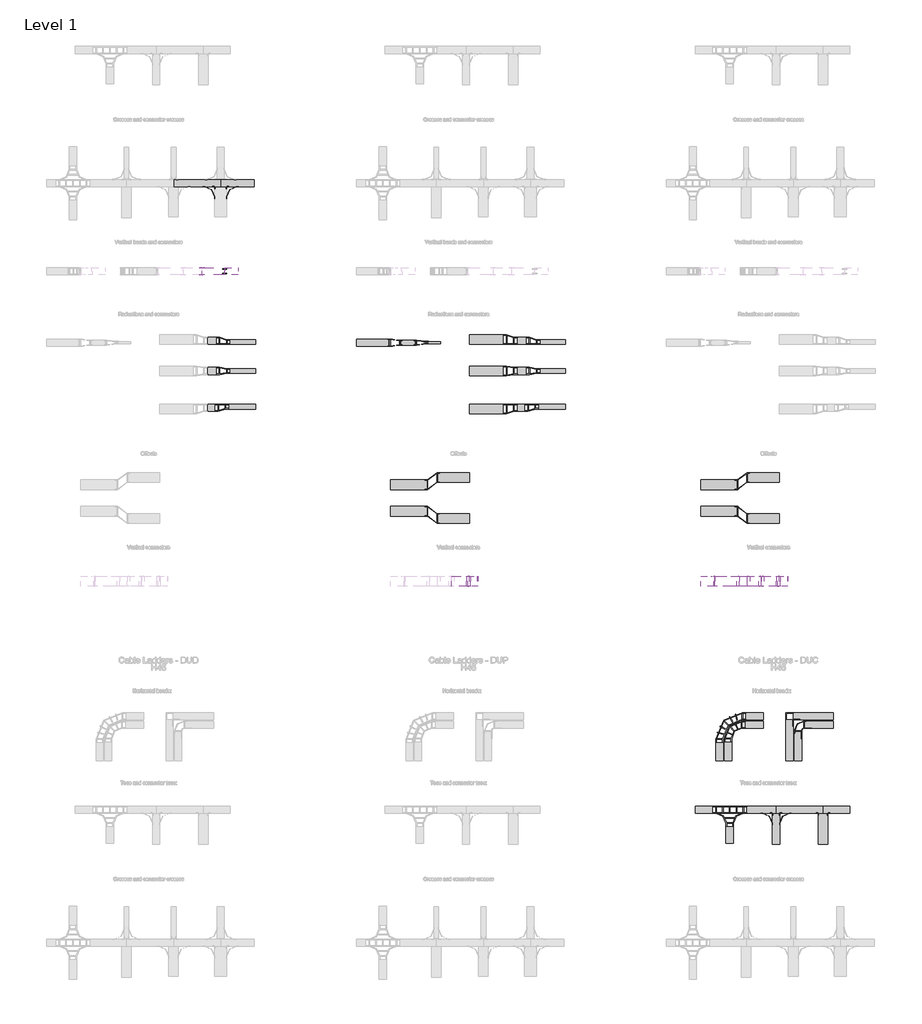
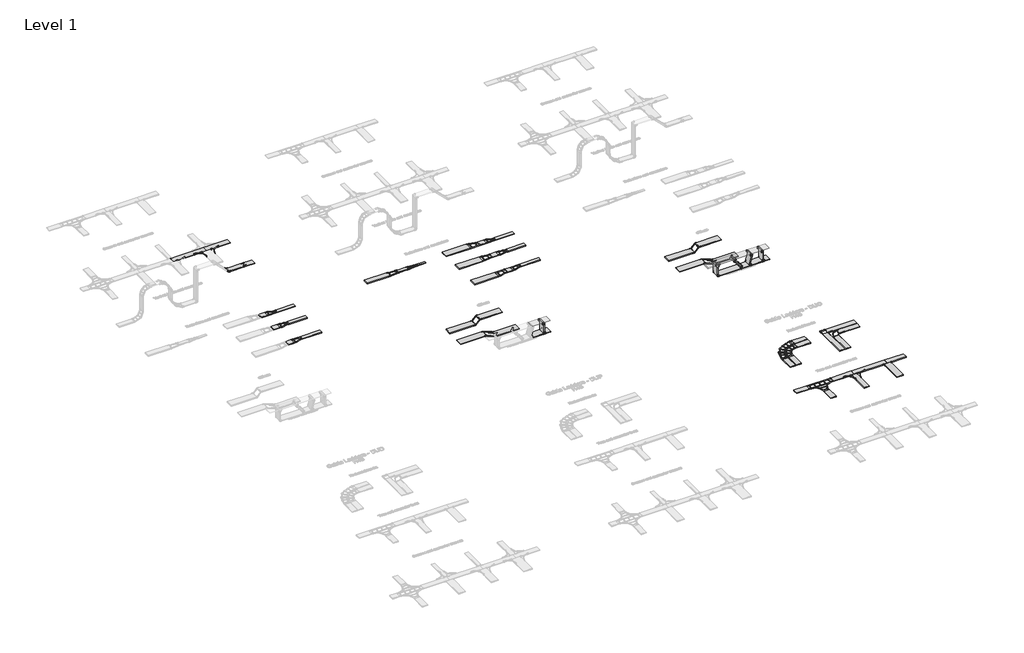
# One storey, part 13 of 106: 63 cable carrier segments, 56 cable carrier fittings.
"""IFC4 building model written with IfcOpenShell, lengths in millimetres."""

from ifc_helpers import new_model, si_unit, frame, origin, place, context, project, spatial, polyline, outline, extrude, transform, mapped, element, save
from components import cable_carrier_fitting_c78842c5, cable_carrier_fitting_6b69b3b7, cable_carrier_fitting_2d894193, cable_carrier_fitting_655502a1, cable_carrier_fitting_0f11f104, cable_carrier_fitting_c89aad98, cable_carrier_fitting_28cc8021, cable_carrier_fitting_a9217249, cable_carrier_fitting_87479157, cable_carrier_fitting_b11fac2c, cable_carrier_fitting_3ee89383, cable_carrier_fitting_dba92b4f, cable_carrier_fitting_45659740, cable_carrier_fitting_ec1c524e, cable_carrier_fitting_41da71e9, cable_carrier_fitting_05152c93, cable_carrier_fitting_202d3e5f, cable_carrier_fitting_ba505e55, cable_carrier_fitting_958e6ea8, cable_carrier_fitting_671e1b7f, cable_carrier_fitting_ea2b664d, cable_carrier_fitting_cb814f34, cable_carrier_fitting_8b1f635d, cable_carrier_fitting_7f83391f, cable_carrier_fitting_c279e415, cable_carrier_fitting_8fabbff6, cable_carrier_fitting_8d7dc52b, cable_carrier_fitting_d30d66bc, cable_carrier_fitting_c0237f39, cable_carrier_fitting_32c3d949, cable_carrier_fitting_d493446b, cable_carrier_fitting_82e7e0fc, cable_carrier_fitting_df7fb664, cable_carrier_fitting_c25b36c4, cable_carrier_fitting_384de159, cable_carrier_fitting_cef1446e, cable_carrier_fitting_ca44e503

model = new_model("IFC4")

# Units and contexts
model_context = context("Model", 3, world=origin())
ifc_project = project(units=[si_unit("LENGTHUNIT", "METRE", prefix="MILLI")], contexts=[model_context])

# Site, building, storey
site = spatial("IfcSite", under=ifc_project)
building = spatial("IfcBuilding", under=site)
storey = spatial("IfcBuildingStorey", under=building, Name="Level 1", Elevation=0.0)

# Cable carrier fittings
placement = place(None, origin())
cable_carrier_fitting_shape = cable_carrier_fitting_c78842c5(model_context)
element("IfcCableCarrierFitting", 1, ObjectType="BAKS_LD_CONN_Straight connector_LDC : LDC_H45", at=placement, inside=storey, context=model_context, shape_type="MappedRepresentation", body=[
    mapped(cable_carrier_fitting_shape, transform((33184.5221787, 56106.9805429, 1239.8602102), x_axis=(1.0, 0.0, 0.0), y_axis=(0.0, 1.0, 0.0), z_axis=(0.0, 0.0, 1.0))),
])
cable_carrier_fitting_2_shape = cable_carrier_fitting_6b69b3b7(model_context)
element("IfcCableCarrierFitting", 2, ObjectType="BAKS_LD_CONN_Vertical connector light_LPLS : LPLS60", at=placement, inside=storey, context=model_context, shape_type="MappedRepresentation", body=[
    mapped(cable_carrier_fitting_2_shape, transform((53559.0241468, 43507.9361079, 2052.4619182), x_axis=(-1.0, 0.0, 0.0), y_axis=(0.0, 0.0, 1.0), z_axis=(0.0, 1.0, 0.0))),
])
cable_carrier_fitting_3_shape = cable_carrier_fitting_2d894193(model_context)
element("IfcCableCarrierFitting", 3, ObjectType="BAKS_LD_CONN_Angle coupler bendable_LKU : LKUP_H45", at=placement, inside=storey, context=model_context, shape_type="MappedRepresentation", body=[
    mapped(cable_carrier_fitting_3_shape, transform((32762.2849338, 59720.7686574, 32.5), x_axis=(1.0, 0.0, 0.0), y_axis=(0.0, 1.0, 0.0), z_axis=(0.0, 0.0, 1.0))),
])
element("IfcCableCarrierFitting", 4, ObjectType="BAKS_LD_CONN_Angle coupler bendable_LKU : LKUP_H45", at=placement, inside=storey, context=model_context, shape_type="MappedRepresentation", body=[
    mapped(cable_carrier_fitting_3_shape, transform((33262.2849338, 59720.7686574, 32.5), x_axis=(0.0, 1.0, 0.0), y_axis=(-1.0, 0.0, 0.0), z_axis=(0.0, 0.0, 1.0))),
])
cable_carrier_fitting_4_shape = cable_carrier_fitting_655502a1(model_context)
element("IfcCableCarrierFitting", 5, ObjectType="BAKS_LD_CONN_Angle coupler bendable_LKU : LKUC_H45", at=placement, inside=storey, context=model_context, shape_type="MappedRepresentation", body=[
    mapped(cable_carrier_fitting_4_shape, transform((55980.7849338, 33655.924016, 32.5), x_axis=(1.0, 0.0, 0.0), y_axis=(0.0, 1.0, 0.0), z_axis=(0.0, 0.0, 1.0))),
])
element("IfcCableCarrierFitting", 6, ObjectType="BAKS_LD_CONN_Angle coupler bendable_LKU : LKUC_H45", at=placement, inside=storey, context=model_context, shape_type="MappedRepresentation", body=[
    mapped(cable_carrier_fitting_4_shape, transform((56280.7849338, 33655.924016, 32.5), x_axis=(0.0, 1.0, 0.0), y_axis=(-1.0, 0.0, 0.0), z_axis=(0.0, 0.0, 1.0))),
])
element("IfcCableCarrierFitting", 7, ObjectType="BAKS_LD_CONN_Angle coupler bendable_LKU : LKUC_H45", at=placement, inside=storey, context=model_context, shape_type="MappedRepresentation", body=[
    mapped(cable_carrier_fitting_4_shape, transform((57889.4231102, 33655.924016, 32.5), x_axis=(1.0, 0.0, 0.0), y_axis=(0.0, 1.0, 0.0), z_axis=(0.0, 0.0, 1.0))),
])
element("IfcCableCarrierFitting", 8, ObjectType="BAKS_LD_CONN_Angle coupler bendable_LKU : LKUC_H45", at=placement, inside=storey, context=model_context, shape_type="MappedRepresentation", body=[
    mapped(cable_carrier_fitting_4_shape, transform((58289.4231102, 33655.924016, 32.5), x_axis=(0.0, 1.0, 0.0), y_axis=(-1.0, 0.0, 0.0), z_axis=(0.0, 0.0, 1.0))),
])
cable_carrier_fitting_5_shape = cable_carrier_fitting_0f11f104(model_context)
element("IfcCableCarrierFitting", 9, ObjectType="BAKS_LD_CONN_Addon connector_LDDK : LDDKP", at=placement, inside=storey, context=model_context, shape_type="MappedRepresentation", body=[
    mapped(cable_carrier_fitting_5_shape, transform((32762.2849338, 59720.7686574, 55.0), x_axis=(1.0, 0.0, 0.0), y_axis=(0.0, 1.0, 0.0), z_axis=(0.0, 0.0, 1.0))),
])
element("IfcCableCarrierFitting", 10, ObjectType="BAKS_LD_CONN_Addon connector_LDDK : LDDKP", at=placement, inside=storey, context=model_context, shape_type="MappedRepresentation", body=[
    mapped(cable_carrier_fitting_5_shape, transform((55980.7849338, 33655.924016, 55.0), x_axis=(1.0, 0.0, 0.0), y_axis=(0.0, 1.0, 0.0), z_axis=(0.0, 0.0, 1.0))),
])
cable_carrier_fitting_6_shape = cable_carrier_fitting_c89aad98(model_context)
element("IfcCableCarrierFitting", 11, ObjectType="BAKS_LD_CONN_Vertical connector light_LPLS : LPLS60", at=placement, inside=storey, context=model_context, shape_type="MappedRepresentation", body=[
    mapped(cable_carrier_fitting_6_shape, transform((53559.0241468, 43107.9361079, 2052.4619182), x_axis=(-1.0, 0.0, 0.0), y_axis=(0.0, 0.0, -1.0), z_axis=(0.0, -1.0, 0.0))),
])
cable_carrier_fitting_7_shape = cable_carrier_fitting_28cc8021(model_context)
element("IfcCableCarrierFitting", 12, ObjectType="BAKS_LD_RED_Straight reducer_RD : RD(S/L/P)P_H45", at=placement, inside=storey, context=model_context, shape_type="MappedRepresentation", body=[
    mapped(cable_carrier_fitting_7_shape, transform((44765.5222547, 52057.8476348, 55.0), x_axis=(1.0, 0.0, 0.0), y_axis=(0.0, 1.0, 0.0), z_axis=(0.0, 0.0, 1.0))),
])
cable_carrier_fitting_8_shape = cable_carrier_fitting_a9217249(model_context)
element("IfcCableCarrierFitting", 13, ObjectType="BAKS_LD_CONN_Addon connector_LDDK : LDDKP", at=placement, inside=storey, context=model_context, shape_type="MappedRepresentation", body=[
    mapped(cable_carrier_fitting_8_shape, transform((33262.2849338, 59720.7686574, 55.0), x_axis=(-1.0, 0.0, 0.0), y_axis=(0.0, -1.0, 0.0), z_axis=(0.0, 0.0, 1.0))),
])
element("IfcCableCarrierFitting", 14, ObjectType="BAKS_LD_CONN_Addon connector_LDDK : LDDKP", at=placement, inside=storey, context=model_context, shape_type="MappedRepresentation", body=[
    mapped(cable_carrier_fitting_8_shape, transform((56280.7849338, 33655.924016, 55.0), x_axis=(-1.0, 0.0, 0.0), y_axis=(0.0, -1.0, 0.0), z_axis=(0.0, 0.0, 1.0))),
])
cable_carrier_fitting_9_shape = cable_carrier_fitting_87479157(model_context)
element("IfcCableCarrierFitting", 15, ObjectType="BAKS_LD_BEND_Articulated connector_LG : LGT_H45", at=placement, inside=storey, context=model_context, shape_type="MappedRepresentation", body=[
    mapped(cable_carrier_fitting_9_shape, transform((32224.5221787, 56056.9805429, 1239.8602102), x_axis=(0.7071067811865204, 0.0, -0.7071067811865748), y_axis=(0.7071067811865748, 0.0, 0.7071067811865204), z_axis=(0.0, -1.0, 0.0))),
])
cable_carrier_fitting_10_shape = cable_carrier_fitting_b11fac2c(model_context)
element("IfcCableCarrierFitting", 16, ObjectType="BAKS_LD_BEND_Articulated connector_LG : LGT_H45", at=placement, inside=storey, context=model_context, shape_type="MappedRepresentation", body=[
    mapped(cable_carrier_fitting_10_shape, transform((32224.5221787, 56356.9805429, 1239.8602102), x_axis=(0.7071067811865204, 0.0, -0.7071067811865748), y_axis=(-0.7071067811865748, 0.0, -0.7071067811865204), z_axis=(0.0, 1.0, 0.0))),
])
cable_carrier_fitting_11_shape = cable_carrier_fitting_3ee89383(model_context)
element("IfcCableCarrierFitting", 17, ObjectType="BAKS_LD_CONN_Univarsal connector reduction_LLUS : LLUSP_H45", at=placement, inside=storey, context=model_context, shape_type="MappedRepresentation", body=[
    mapped(cable_carrier_fitting_11_shape, transform((41064.3823889, 53231.6579459, 55.0), x_axis=(1.0, 0.0, 0.0), y_axis=(0.0, 1.0, 0.0), z_axis=(0.0, 0.0, 1.0))),
])
cable_carrier_fitting_12_shape = cable_carrier_fitting_dba92b4f(model_context)
element("IfcCableCarrierFitting", 18, ObjectType="BAKS_LD_RED_Straight reducer_RD : RD(S/L/P)P_H45", at=placement, inside=storey, context=model_context, shape_type="MappedRepresentation", body=[
    mapped(cable_carrier_fitting_12_shape, transform((44765.5222547, 50471.6579459, 55.0), x_axis=(1.0, 0.0, 0.0), y_axis=(0.0, 1.0, 0.0), z_axis=(0.0, 0.0, 1.0))),
])
cable_carrier_fitting_13_shape = cable_carrier_fitting_45659740(model_context)
element("IfcCableCarrierFitting", 19, ObjectType="BAKS_LD_RED_Straight reducer_RD : RD(S/L/P)P_H45", at=placement, inside=storey, context=model_context, shape_type="MappedRepresentation", body=[
    mapped(cable_carrier_fitting_13_shape, transform((33365.5222547, 50571.6579459, 55.0), x_axis=(-1.0, 0.0, 0.0), y_axis=(0.0, -1.0, 0.0), z_axis=(0.0, 0.0, 1.0))),
])
element("IfcCableCarrierFitting", 20, ObjectType="BAKS_LD_RED_Straight reducer_RD : RD(S/L/P)P_H45", at=placement, inside=storey, context=model_context, shape_type="MappedRepresentation", body=[
    mapped(cable_carrier_fitting_13_shape, transform((46265.5222547, 50571.6579459, 55.0), x_axis=(-1.0, 0.0, 0.0), y_axis=(0.0, -1.0, 0.0), z_axis=(0.0, 0.0, 1.0))),
])
cable_carrier_fitting_14_shape = cable_carrier_fitting_ec1c524e(model_context)
element("IfcCableCarrierFitting", 21, ObjectType="BAKS_LD_RED_Straight reducer_RD : RD(S/L/P)P_H45", at=placement, inside=storey, context=model_context, shape_type="MappedRepresentation", body=[
    mapped(cable_carrier_fitting_14_shape, transform((44765.5222547, 53357.8476348, 55.0), x_axis=(1.0, 0.0, 0.0), y_axis=(0.0, 1.0, 0.0), z_axis=(0.0, 0.0, 1.0))),
])
cable_carrier_fitting_15_shape = cable_carrier_fitting_41da71e9(model_context)
element("IfcCableCarrierFitting", 22, ObjectType="BAKS_LD_RED_Straight reducer_RD : RD(S/L/P)P_H45", at=placement, inside=storey, context=model_context, shape_type="MappedRepresentation", body=[
    mapped(cable_carrier_fitting_15_shape, transform((33416.5656993, 53257.8476348, 55.0), x_axis=(-1.0, 0.0, 0.0), y_axis=(0.0, -1.0, 0.0), z_axis=(0.0, 0.0, 1.0))),
])
element("IfcCableCarrierFitting", 23, ObjectType="BAKS_LD_RED_Straight reducer_RD : RD(S/L/P)P_H45", at=placement, inside=storey, context=model_context, shape_type="MappedRepresentation", body=[
    mapped(cable_carrier_fitting_15_shape, transform((46316.5656993, 53257.8476348, 55.0), x_axis=(-1.0, 0.0, 0.0), y_axis=(0.0, -1.0, 0.0), z_axis=(0.0, 0.0, 1.0))),
])
cable_carrier_fitting_16_shape = cable_carrier_fitting_05152c93(model_context)
element("IfcCableCarrierFitting", 24, ObjectType="BAKS_LD_RED_Straight reducer_RD : RD(S/L/P)P_H45", at=placement, inside=storey, context=model_context, shape_type="MappedRepresentation", body=[
    mapped(cable_carrier_fitting_16_shape, transform((33416.5656993, 52057.8476348, 55.0), x_axis=(-1.0, 0.0, 0.0), y_axis=(0.0, -1.0, 0.0), z_axis=(0.0, 0.0, 1.0))),
])
element("IfcCableCarrierFitting", 25, ObjectType="BAKS_LD_RED_Straight reducer_RD : RD(S/L/P)P_H45", at=placement, inside=storey, context=model_context, shape_type="MappedRepresentation", body=[
    mapped(cable_carrier_fitting_16_shape, transform((46316.5656993, 52057.8476348, 55.0), x_axis=(-1.0, 0.0, 0.0), y_axis=(0.0, -1.0, 0.0), z_axis=(0.0, 0.0, 1.0))),
])
cable_carrier_fitting_17_shape = cable_carrier_fitting_202d3e5f(model_context)
element("IfcCableCarrierFitting", 26, ObjectType="BAKS_LD_CONN_Univarsal connector reduction_LLUS : LLUSP_H45", at=placement, inside=storey, context=model_context, shape_type="MappedRepresentation", body=[
    mapped(cable_carrier_fitting_17_shape, transform((39964.3823889, 53231.6579459, 55.0), x_axis=(1.0, 0.0, 0.0), y_axis=(0.0, 1.0, 0.0), z_axis=(0.0, 0.0, 1.0))),
])
cable_carrier_fitting_18_shape = cable_carrier_fitting_ba505e55(model_context)
element("IfcCableCarrierFitting", 27, ObjectType="BAKS_LD_CONN_Univarsal connector offset_LLUS : LLUSP_H45", at=placement, inside=storey, context=model_context, shape_type="MappedRepresentation", body=[
    mapped(cable_carrier_fitting_18_shape, transform((41595.3508196, 47320.3591551, 55.0), x_axis=(1.0, 0.0, 0.0), y_axis=(0.0, 1.0, 0.0), z_axis=(0.0, 0.0, 1.0))),
])
cable_carrier_fitting_19_shape = cable_carrier_fitting_958e6ea8(model_context)
element("IfcCableCarrierFitting", 28, ObjectType="BAKS_LD_CONN_Univarsal connector offset_LLUS : LLUSP_H45", at=placement, inside=storey, context=model_context, shape_type="MappedRepresentation", body=[
    mapped(cable_carrier_fitting_19_shape, transform((41595.3508196, 46220.3591551, 55.0), x_axis=(1.0, 0.0, 0.0), y_axis=(0.0, 1.0, 0.0), z_axis=(0.0, 0.0, 1.0))),
])
cable_carrier_fitting_20_shape = cable_carrier_fitting_671e1b7f(model_context)
element("IfcCableCarrierFitting", 29, ObjectType="BAKS_LD_TEE_Articulated connector attachable_LDD : LDDT_H45", at=placement, inside=storey, context=model_context, shape_type="MappedRepresentation", body=[
    mapped(cable_carrier_fitting_20_shape, transform((43252.1274343, 43507.9361079, 1949.9576433), x_axis=(-1.0, 0.0, 0.0), y_axis=(0.0, -1.0, 0.0), z_axis=(0.0, 0.0, 1.0))),
])
element("IfcCableCarrierFitting", 30, ObjectType="BAKS_LD_TEE_Articulated connector attachable_LDD : LDDT_H45", at=placement, inside=storey, context=model_context, shape_type="MappedRepresentation", body=[
    mapped(cable_carrier_fitting_20_shape, transform((43407.1274343, 43507.9361079, 1412.2815792), x_axis=(1.0, 0.0, 0.0), y_axis=(0.0, -1.0, 0.0), z_axis=(0.0, 0.0, -1.0))),
])
cable_carrier_fitting_21_shape = cable_carrier_fitting_ea2b664d(model_context)
element("IfcCableCarrierFitting", 31, ObjectType="BAKS_LD_TEE_Articulated connector attachable_LDD : LDDT_H45", at=placement, inside=storey, context=model_context, shape_type="MappedRepresentation", body=[
    mapped(cable_carrier_fitting_21_shape, transform((43252.1274343, 43107.9361079, 1949.9576433), x_axis=(-1.0, 0.0, 0.0), y_axis=(0.0, -1.0, 0.0), z_axis=(0.0, 0.0, 1.0))),
])
element("IfcCableCarrierFitting", 32, ObjectType="BAKS_LD_TEE_Articulated connector attachable_LDD : LDDT_H45", at=placement, inside=storey, context=model_context, shape_type="MappedRepresentation", body=[
    mapped(cable_carrier_fitting_21_shape, transform((43407.1274343, 43107.9361079, 1412.2815792), x_axis=(1.0, 0.0, 0.0), y_axis=(0.0, -1.0, 0.0), z_axis=(0.0, 0.0, -1.0))),
])
cable_carrier_fitting_22_shape = cable_carrier_fitting_cb814f34(model_context)
element("IfcCableCarrierFitting", 33, ObjectType="BAKS_LD_BEND_Horizontal bend external_LDZ : LDZC_H45", at=placement, inside=storey, context=model_context, shape_type="MappedRepresentation", body=[
    mapped(cable_carrier_fitting_22_shape, transform((53779.6389398, 37687.6308868, 55.0), x_axis=(-1.0, 0.0, 0.0), y_axis=(0.0, -1.0, 0.0), z_axis=(0.0, 0.0, 1.0))),
])
cable_carrier_fitting_23_shape = cable_carrier_fitting_8b1f635d(model_context)
element("IfcCableCarrierFitting", 34, ObjectType="BAKS_LD_BEND_Horizontal bend_LD : LDC_H45", at=placement, inside=storey, context=model_context, shape_type="MappedRepresentation", body=[
    mapped(cable_carrier_fitting_23_shape, transform((54133.1923304, 37334.0774962, 55.0), x_axis=(-1.0, 0.0, 0.0), y_axis=(0.0, -1.0, 0.0), z_axis=(0.0, 0.0, 1.0))),
])
cable_carrier_fitting_24_shape = cable_carrier_fitting_7f83391f(model_context)
element("IfcCableCarrierFitting", 35, ObjectType="BAKS_LD_BEND_2 x Angle connector_LKD : 2 x LKDC_H45", at=placement, inside=storey, context=model_context, shape_type="MappedRepresentation", body=[
    mapped(cable_carrier_fitting_24_shape, transform((56692.4394324, 37687.6212743, 55.0), x_axis=(-1.0, 0.0, 0.0), y_axis=(0.0, -1.0, 0.0), z_axis=(0.0, 0.0, 1.0))),
])
cable_carrier_fitting_25_shape = cable_carrier_fitting_c279e415(model_context)
element("IfcCableCarrierFitting", 36, ObjectType="BAKS_LD_CONN_Angle connector_LKD : LKDC_H45", at=placement, inside=storey, context=model_context, shape_type="MappedRepresentation", body=[
    mapped(cable_carrier_fitting_25_shape, transform((56542.4383806, 37837.6212743, 55.0), x_axis=(-1.0, 0.0, 0.0), y_axis=(0.0, -1.0, 0.0), z_axis=(0.0, 0.0, 1.0))),
])
cable_carrier_fitting_26_shape = cable_carrier_fitting_8fabbff6(model_context)
element("IfcCableCarrierFitting", 37, ObjectType="BAKS_LD_CONN_Angle connector_LKD : LKDC_H45", at=placement, inside=storey, context=model_context, shape_type="MappedRepresentation", body=[
    mapped(cable_carrier_fitting_26_shape, transform((56842.4404841, 37537.6212743, 55.0), x_axis=(-1.0, 0.0, 0.0), y_axis=(0.0, -1.0, 0.0), z_axis=(0.0, 0.0, 1.0))),
])
cable_carrier_fitting_27_shape = cable_carrier_fitting_8d7dc52b(model_context)
element("IfcCableCarrierFitting", 38, ObjectType="BAKS_LD_CONN_Univarsal connector elbow_LLUS : LLUS_H45", at=placement, inside=storey, context=model_context, shape_type="MappedRepresentation", body=[
    mapped(cable_carrier_fitting_27_shape, transform((57045.9928229, 37334.0678837, 55.0), x_axis=(-1.0, 0.0, 0.0), y_axis=(0.0, -1.0, 0.0), z_axis=(0.0, 0.0, 1.0))),
])
cable_carrier_fitting_28_shape = cable_carrier_fitting_d30d66bc(model_context)
element("IfcCableCarrierFitting", 39, ObjectType="BAKS_LD_TEE_Ladder horizontal tee_TD : TDC_H45", at=placement, inside=storey, context=model_context, shape_type="MappedRepresentation", body=[
    mapped(cable_carrier_fitting_28_shape, transform((54202.3039726, 33805.924016, 55.0), x_axis=(1.0, 0.0, 0.0), y_axis=(0.0, 1.0, 0.0), z_axis=(0.0, 0.0, 1.0))),
])
cable_carrier_fitting_29_shape = cable_carrier_fitting_c0237f39(model_context)
element("IfcCableCarrierFitting", 40, ObjectType="BAKS_LD_BEND_Articulated connector_LG : LGC_H45", at=placement, inside=storey, context=model_context, shape_type="MappedRepresentation", body=[
    mapped(cable_carrier_fitting_29_shape, transform((53559.0241468, 43107.9361079, 1334.7815792), x_axis=(0.0, 0.0, -1.0), y_axis=(1.0, 0.0, 0.0), z_axis=(0.0, -1.0, 0.0))),
])
cable_carrier_fitting_30_shape = cable_carrier_fitting_32c3d949(model_context)
element("IfcCableCarrierFitting", 41, ObjectType="BAKS_LD_BEND_Articulated connector_LG : LGC_H45", at=placement, inside=storey, context=model_context, shape_type="MappedRepresentation", body=[
    mapped(cable_carrier_fitting_30_shape, transform((53559.0241468, 43507.9361079, 1334.7815792), x_axis=(0.0, 0.0, -1.0), y_axis=(-1.0, 0.0, 0.0), z_axis=(0.0, 1.0, 0.0))),
])
cable_carrier_fitting_31_shape = cable_carrier_fitting_d493446b(model_context)
element("IfcCableCarrierFitting", 42, ObjectType="BAKS_LD_CONN_Univarsal connector offset_LLUS : LLUS_H45", at=placement, inside=storey, context=model_context, shape_type="MappedRepresentation", body=[
    mapped(cable_carrier_fitting_31_shape, transform((54495.3508196, 47320.3591551, 55.0), x_axis=(1.0, 0.0, 0.0), y_axis=(0.0, 1.0, 0.0), z_axis=(0.0, 0.0, 1.0))),
])
cable_carrier_fitting_32_shape = cable_carrier_fitting_82e7e0fc(model_context)
element("IfcCableCarrierFitting", 43, ObjectType="BAKS_LD_CONN_Univarsal connector offset_LLUS : LLUS_H45", at=placement, inside=storey, context=model_context, shape_type="MappedRepresentation", body=[
    mapped(cable_carrier_fitting_32_shape, transform((54495.3508196, 46220.3591551, 55.0), x_axis=(1.0, 0.0, 0.0), y_axis=(0.0, 1.0, 0.0), z_axis=(0.0, 0.0, 1.0))),
])
cable_carrier_fitting_33_shape = cable_carrier_fitting_df7fb664(model_context)
element("IfcCableCarrierFitting", 44, ObjectType="BAKS_LD_TEE_Articulated connector attachable_LDD : LDDC_H45", at=placement, inside=storey, context=model_context, shape_type="MappedRepresentation", body=[
    mapped(cable_carrier_fitting_33_shape, transform((54610.266251, 43507.9361079, 1949.9576433), x_axis=(1.0, 0.0, 0.0), y_axis=(0.0, 1.0, 0.0), z_axis=(0.0, 0.0, 1.0))),
])
element("IfcCableCarrierFitting", 45, ObjectType="BAKS_LD_TEE_Articulated connector attachable_LDD : LDDC_H45", at=placement, inside=storey, context=model_context, shape_type="MappedRepresentation", body=[
    mapped(cable_carrier_fitting_33_shape, transform((54928.739213, 43507.9361079, 1412.2815792), x_axis=(-1.0, 0.0, 0.0), y_axis=(0.0, 1.0, 0.0), z_axis=(0.0, 0.0, -1.0))),
])
cable_carrier_fitting_34_shape = cable_carrier_fitting_c25b36c4(model_context)
element("IfcCableCarrierFitting", 46, ObjectType="BAKS_LD_TEE_Articulated connector attachable_LDD : LDDC_H45", at=placement, inside=storey, context=model_context, shape_type="MappedRepresentation", body=[
    mapped(cable_carrier_fitting_34_shape, transform((54610.266251, 43107.9361079, 1949.9576433), x_axis=(1.0, 0.0, 0.0), y_axis=(0.0, 1.0, 0.0), z_axis=(0.0, 0.0, 1.0))),
])
element("IfcCableCarrierFitting", 47, ObjectType="BAKS_LD_TEE_Articulated connector attachable_LDD : LDDC_H45", at=placement, inside=storey, context=model_context, shape_type="MappedRepresentation", body=[
    mapped(cable_carrier_fitting_34_shape, transform((54928.739213, 43107.9361079, 1412.2815792), x_axis=(-1.0, 0.0, 0.0), y_axis=(0.0, 1.0, 0.0), z_axis=(0.0, 0.0, -1.0))),
])
cable_carrier_fitting_35_shape = cable_carrier_fitting_384de159(model_context)
element("IfcCableCarrierFitting", 48, ObjectType="BAKS_LD_TEE_Articulated connector attachable_LDD : LDDC_H45", at=placement, inside=storey, context=model_context, shape_type="MappedRepresentation", body=[
    mapped(cable_carrier_fitting_35_shape, transform((55526.8193277, 43507.9361079, 1412.2815792), x_axis=(1.0, 0.0, 0.0), y_axis=(0.0, -1.0, 0.0), z_axis=(0.0, 0.0, -1.0))),
])
element("IfcCableCarrierFitting", 49, ObjectType="BAKS_LD_TEE_Articulated connector attachable_LDD : LDDC_H45", at=placement, inside=storey, context=model_context, shape_type="MappedRepresentation", body=[
    mapped(cable_carrier_fitting_35_shape, transform((55510.4138626, 43507.9361079, 1949.9295622), x_axis=(-1.0, 0.0, 0.0), y_axis=(0.0, -1.0, 0.0), z_axis=(0.0, 0.0, 1.0))),
])
cable_carrier_fitting_36_shape = cable_carrier_fitting_cef1446e(model_context)
element("IfcCableCarrierFitting", 50, ObjectType="BAKS_LD_TEE_Articulated connector attachable_LDD : LDDC_H45", at=placement, inside=storey, context=model_context, shape_type="MappedRepresentation", body=[
    mapped(cable_carrier_fitting_36_shape, transform((55526.8193277, 43107.9361079, 1412.2815792), x_axis=(1.0, 0.0, 0.0), y_axis=(0.0, -1.0, 0.0), z_axis=(0.0, 0.0, -1.0))),
])
element("IfcCableCarrierFitting", 51, ObjectType="BAKS_LD_TEE_Articulated connector attachable_LDD : LDDC_H45", at=placement, inside=storey, context=model_context, shape_type="MappedRepresentation", body=[
    mapped(cable_carrier_fitting_36_shape, transform((55510.4138626, 43107.9361079, 1949.9295622), x_axis=(-1.0, 0.0, 0.0), y_axis=(0.0, -1.0, 0.0), z_axis=(0.0, 0.0, 1.0))),
])
element("IfcCableCarrierFitting", 52, ObjectType="BAKS_LD_TEE_Articulated connector attachable_LDD : LDDC_H45", at=placement, inside=storey, context=model_context, shape_type="MappedRepresentation", body=[
    mapped(cable_carrier_fitting_20_shape, transform((56152.1274343, 43507.9361079, 1949.9576433), x_axis=(-1.0, 0.0, 0.0), y_axis=(0.0, -1.0, 0.0), z_axis=(0.0, 0.0, 1.0))),
])
element("IfcCableCarrierFitting", 53, ObjectType="BAKS_LD_TEE_Articulated connector attachable_LDD : LDDC_H45", at=placement, inside=storey, context=model_context, shape_type="MappedRepresentation", body=[
    mapped(cable_carrier_fitting_20_shape, transform((56307.1274343, 43507.9361079, 1412.2815792), x_axis=(1.0, 0.0, 0.0), y_axis=(0.0, -1.0, 0.0), z_axis=(0.0, 0.0, -1.0))),
])
element("IfcCableCarrierFitting", 54, ObjectType="BAKS_LD_TEE_Articulated connector attachable_LDD : LDDC_H45", at=placement, inside=storey, context=model_context, shape_type="MappedRepresentation", body=[
    mapped(cable_carrier_fitting_21_shape, transform((56152.1274343, 43107.9361079, 1949.9576433), x_axis=(-1.0, 0.0, 0.0), y_axis=(0.0, -1.0, 0.0), z_axis=(0.0, 0.0, 1.0))),
])
element("IfcCableCarrierFitting", 55, ObjectType="BAKS_LD_TEE_Articulated connector attachable_LDD : LDDC_H45", at=placement, inside=storey, context=model_context, shape_type="MappedRepresentation", body=[
    mapped(cable_carrier_fitting_21_shape, transform((56307.1274343, 43107.9361079, 1412.2815792), x_axis=(1.0, 0.0, 0.0), y_axis=(0.0, -1.0, 0.0), z_axis=(0.0, 0.0, -1.0))),
])
cable_carrier_fitting_37_shape = cable_carrier_fitting_ca44e503(model_context)
element("IfcCableCarrierFitting", 56, ObjectType="BAKS_LD_CONN_Straight connector_LDC : LDC_H45", at=placement, inside=storey, context=model_context, shape_type="MappedRepresentation", body=[
    mapped(cable_carrier_fitting_37_shape, transform((33184.5221787, 56306.9805429, 1239.8602102), x_axis=(1.0, 0.0, 0.0), y_axis=(0.0, 1.0, 0.0), z_axis=(0.0, 0.0, 1.0))),
])

# Cable carrier segments
element("IfcCableCarrierSegment", 57, ObjectType="BAKS - Ladder H45 (DKD)", at=placement, inside=storey, context=model_context, shape_type="SweptSolid", body=[
    extrude(outline(polyline([(31052.4231102, 59720.7686574), (31052.4231102, 60020.7686574), (33010.7849338, 60020.7686574), (33010.7849338, 59720.7686574), (31052.4231102, 59720.7686574)])), frame((0.0, 0.0, 32.5), z_axis=(0.0, 0.0, 1.0), x_axis=(1.0, 0.0, 0.0)), (0.0, 0.0, 1.0), 45.0),
])
element("IfcCableCarrierSegment", 58, ObjectType="BAKS - Ladder H45 (DKD)", at=placement, inside=storey, context=model_context, shape_type="SweptSolid", body=[
    extrude(outline(polyline([(33013.7849338, 59720.7686574), (33013.7849338, 60020.7686574), (34413.7849338, 60020.7686574), (34413.7849338, 59720.7686574), (33013.7849338, 59720.7686574)])), frame((0.0, 0.0, 32.5), z_axis=(0.0, 0.0, 1.0), x_axis=(1.0, 0.0, 0.0)), (0.0, 0.0, 1.0), 45.0),
])
element("IfcCableCarrierSegment", 59, ObjectType="BAKS - Ladder H45 (DKD)", at=placement, inside=storey, context=model_context, shape_type="SweptSolid", body=[
    extrude(outline(polyline([(33185.5221787, 56056.9805429), (33185.5221787, 56356.9805429), (33744.5221787, 56356.9805429), (33744.5221787, 56056.9805429), (33185.5221787, 56056.9805429)])), frame((0.0, 0.0, 1217.3602102), z_axis=(0.0, 0.0, 1.0), x_axis=(1.0, 0.0, 0.0)), (0.0, 0.0, 1.0), 45.0),
])
element("IfcCableCarrierSegment", 60, ObjectType="BAKS - Ladder H45 (DKD)", at=placement, inside=storey, context=model_context, shape_type="SweptSolid", body=[
    extrude(outline(polyline([(32249.5221787, 56056.9805429), (32249.5221787, 56356.9805429), (33184.5221787, 56356.9805429), (33184.5221787, 56056.9805429), (32249.5221787, 56056.9805429)])), frame((0.0, 0.0, 1217.3602102), z_axis=(0.0, 0.0, 1.0), x_axis=(1.0, 0.0, 0.0)), (0.0, 0.0, 1.0), 45.0),
])
element("IfcCableCarrierSegment", 61, ObjectType="BAKS - Ladder H45 (DKD)", at=placement, inside=storey, context=model_context, shape_type="SweptSolid", body=[
    extrude(outline(polyline([(32765.5222547, 50671.6579459), (32765.5222547, 50371.6579459), (32465.5222547, 50371.6579459), (32465.5222547, 50671.6579459), (32765.5222547, 50671.6579459)])), frame((0.0, 0.0, 32.5), z_axis=(0.0, 0.0, 1.0), x_axis=(1.0, 0.0, 0.0)), (0.0, 0.0, 1.0), 45.0),
])
element("IfcCableCarrierSegment", 62, ObjectType="BAKS - Ladder H45 (DKD)", at=placement, inside=storey, context=model_context, shape_type="SweptSolid", body=[
    extrude(outline(polyline([(34465.5222547, 50671.6579459), (34465.5222547, 50471.6579459), (33365.5222547, 50471.6579459), (33365.5222547, 50671.6579459), (34465.5222547, 50671.6579459)])), frame((0.0, 0.0, 32.5), z_axis=(0.0, 0.0, 1.0), x_axis=(1.0, 0.0, 0.0)), (0.0, 0.0, 1.0), 45.0),
])
element("IfcCableCarrierSegment", 63, ObjectType="BAKS - Ladder H45 (DKD)", at=placement, inside=storey, context=model_context, shape_type="SweptSolid", body=[
    extrude(outline(polyline([(32816.5656993, 53457.8476348), (32816.5656993, 53157.8476348), (32465.5222547, 53157.8476348), (32465.5222547, 53457.8476348), (32816.5656993, 53457.8476348)])), frame((0.0, 0.0, 32.5), z_axis=(0.0, 0.0, 1.0), x_axis=(1.0, 0.0, 0.0)), (0.0, 0.0, 1.0), 45.0),
])
element("IfcCableCarrierSegment", 64, ObjectType="BAKS - Ladder H45 (DKD)", at=placement, inside=storey, context=model_context, shape_type="SweptSolid", body=[
    extrude(outline(polyline([(33416.5656993, 53157.8476348), (33416.5656993, 53357.8476348), (34465.5222547, 53357.8476348), (34465.5222547, 53157.8476348), (33416.5656993, 53157.8476348)])), frame((0.0, 0.0, 32.5), z_axis=(0.0, 0.0, 1.0), x_axis=(1.0, 0.0, 0.0)), (0.0, 0.0, 1.0), 45.0),
])
element("IfcCableCarrierSegment", 65, ObjectType="BAKS - Ladder H45 (DKD)", at=placement, inside=storey, context=model_context, shape_type="SweptSolid", body=[
    extrude(outline(polyline([(32816.5656993, 52207.8476348), (32816.5656993, 51907.8476348), (32465.5222547, 51907.8476348), (32465.5222547, 52207.8476348), (32816.5656993, 52207.8476348)])), frame((0.0, 0.0, 32.5), z_axis=(0.0, 0.0, 1.0), x_axis=(1.0, 0.0, 0.0)), (0.0, 0.0, 1.0), 45.0),
])
element("IfcCableCarrierSegment", 66, ObjectType="BAKS - Ladder H45 (DKD)", at=placement, inside=storey, context=model_context, shape_type="SweptSolid", body=[
    extrude(outline(polyline([(34465.5222547, 52157.8476348), (34465.5222547, 51957.8476348), (33416.5656993, 51957.8476348), (33416.5656993, 52157.8476348), (34465.5222547, 52157.8476348)])), frame((0.0, 0.0, 32.5), z_axis=(0.0, 0.0, 1.0), x_axis=(1.0, 0.0, 0.0)), (0.0, 0.0, 1.0), 45.0),
])
element("IfcCableCarrierSegment", 67, ObjectType="BAKS - Ladder H45 (DKP)", at=placement, inside=storey, context=model_context, shape_type="SweptSolid", body=[
    extrude(outline(polyline([(38664.3823889, 53081.6579459), (38664.3823889, 53381.6579459), (40009.3823889, 53381.6579459), (40009.3823889, 53081.6579459), (38664.3823889, 53081.6579459)])), frame((0.0, 0.0, 32.5), z_axis=(0.0, 0.0, 1.0), x_axis=(1.0, 0.0, 0.0)), (0.0, 0.0, 1.0), 45.0),
])
element("IfcCableCarrierSegment", 68, ObjectType="BAKS - Ladder H45 (DKP)", at=placement, inside=storey, context=model_context, shape_type="SweptSolid", body=[
    extrude(outline(polyline([(40519.3823889, 53131.6579459), (40519.3823889, 53331.6579459), (41109.3823889, 53331.6579459), (41109.3823889, 53131.6579459), (40519.3823889, 53131.6579459)])), frame((0.0, 0.0, 32.5), z_axis=(0.0, 0.0, 1.0), x_axis=(1.0, 0.0, 0.0)), (0.0, 0.0, 1.0), 45.0),
])
element("IfcCableCarrierSegment", 69, ObjectType="BAKS - Ladder H45 (DKP)", at=placement, inside=storey, context=model_context, shape_type="SweptSolid", body=[
    extrude(outline(polyline([(41619.3823889, 53181.6579459), (41619.3823889, 53281.6579459), (42164.3823889, 53281.6579459), (42164.3823889, 53181.6579459), (41619.3823889, 53181.6579459)])), frame((0.0, 0.0, 32.5), z_axis=(0.0, 0.0, 1.0), x_axis=(1.0, 0.0, 0.0)), (0.0, 0.0, 1.0), 45.0),
])
element("IfcCableCarrierSegment", 70, ObjectType="BAKS - Ladder H45 (DKP)", at=placement, inside=storey, context=model_context, shape_type="SweptSolid", body=[
    extrude(outline(polyline([(45665.5222547, 50671.6579459), (45665.5222547, 50371.6579459), (45365.5222547, 50371.6579459), (45365.5222547, 50671.6579459), (45665.5222547, 50671.6579459)])), frame((0.0, 0.0, 32.5), z_axis=(0.0, 0.0, 1.0), x_axis=(1.0, 0.0, 0.0)), (0.0, 0.0, 1.0), 45.0),
])
element("IfcCableCarrierSegment", 71, ObjectType="BAKS - Ladder H45 (DKP)", at=placement, inside=storey, context=model_context, shape_type="SweptSolid", body=[
    extrude(outline(polyline([(43365.5222547, 50271.6579459), (43365.5222547, 50671.6579459), (44765.5222547, 50671.6579459), (44765.5222547, 50271.6579459), (43365.5222547, 50271.6579459)])), frame((0.0, 0.0, 32.5), z_axis=(0.0, 0.0, 1.0), x_axis=(1.0, 0.0, 0.0)), (0.0, 0.0, 1.0), 45.0),
])
element("IfcCableCarrierSegment", 72, ObjectType="BAKS - Ladder H45 (DKP)", at=placement, inside=storey, context=model_context, shape_type="SweptSolid", body=[
    extrude(outline(polyline([(47365.5222547, 50671.6579459), (47365.5222547, 50471.6579459), (46265.5222547, 50471.6579459), (46265.5222547, 50671.6579459), (47365.5222547, 50671.6579459)])), frame((0.0, 0.0, 32.5), z_axis=(0.0, 0.0, 1.0), x_axis=(1.0, 0.0, 0.0)), (0.0, 0.0, 1.0), 45.0),
])
element("IfcCableCarrierSegment", 73, ObjectType="BAKS - Ladder H45 (DKP)", at=placement, inside=storey, context=model_context, shape_type="SweptSolid", body=[
    extrude(outline(polyline([(45716.5656993, 53457.8476348), (45716.5656993, 53157.8476348), (45365.5222547, 53157.8476348), (45365.5222547, 53457.8476348), (45716.5656993, 53457.8476348)])), frame((0.0, 0.0, 32.5), z_axis=(0.0, 0.0, 1.0), x_axis=(1.0, 0.0, 0.0)), (0.0, 0.0, 1.0), 45.0),
])
element("IfcCableCarrierSegment", 74, ObjectType="BAKS - Ladder H45 (DKP)", at=placement, inside=storey, context=model_context, shape_type="SweptSolid", body=[
    extrude(outline(polyline([(43365.5222547, 53157.8476348), (43365.5222547, 53557.8476348), (44765.5222547, 53557.8476348), (44765.5222547, 53157.8476348), (43365.5222547, 53157.8476348)])), frame((0.0, 0.0, 32.5), z_axis=(0.0, 0.0, 1.0), x_axis=(1.0, 0.0, 0.0)), (0.0, 0.0, 1.0), 45.0),
])
element("IfcCableCarrierSegment", 75, ObjectType="BAKS - Ladder H45 (DKP)", at=placement, inside=storey, context=model_context, shape_type="SweptSolid", body=[
    extrude(outline(polyline([(46316.5656993, 53157.8476348), (46316.5656993, 53357.8476348), (47365.5222547, 53357.8476348), (47365.5222547, 53157.8476348), (46316.5656993, 53157.8476348)])), frame((0.0, 0.0, 32.5), z_axis=(0.0, 0.0, 1.0), x_axis=(1.0, 0.0, 0.0)), (0.0, 0.0, 1.0), 45.0),
])
element("IfcCableCarrierSegment", 76, ObjectType="BAKS - Ladder H45 (DKP)", at=placement, inside=storey, context=model_context, shape_type="SweptSolid", body=[
    extrude(outline(polyline([(45716.5656993, 52207.8476348), (45716.5656993, 51907.8476348), (45365.5222547, 51907.8476348), (45365.5222547, 52207.8476348), (45716.5656993, 52207.8476348)])), frame((0.0, 0.0, 32.5), z_axis=(0.0, 0.0, 1.0), x_axis=(1.0, 0.0, 0.0)), (0.0, 0.0, 1.0), 45.0),
])
element("IfcCableCarrierSegment", 77, ObjectType="BAKS - Ladder H45 (DKP)", at=placement, inside=storey, context=model_context, shape_type="SweptSolid", body=[
    extrude(outline(polyline([(47365.5222547, 52157.8476348), (47365.5222547, 51957.8476348), (46316.5656993, 51957.8476348), (46316.5656993, 52157.8476348), (47365.5222547, 52157.8476348)])), frame((0.0, 0.0, 32.5), z_axis=(0.0, 0.0, 1.0), x_axis=(1.0, 0.0, 0.0)), (0.0, 0.0, 1.0), 45.0),
])
element("IfcCableCarrierSegment", 78, ObjectType="BAKS - Ladder H45 (DKP)", at=placement, inside=storey, context=model_context, shape_type="SweptSolid", body=[
    extrude(outline(polyline([(43365.5222547, 51857.8476348), (43365.5222547, 52257.8476348), (44765.5222547, 52257.8476348), (44765.5222547, 51857.8476348), (43365.5222547, 51857.8476348)])), frame((0.0, 0.0, 32.5), z_axis=(0.0, 0.0, 1.0), x_axis=(1.0, 0.0, 0.0)), (0.0, 0.0, 1.0), 45.0),
])
element("IfcCableCarrierSegment", 79, ObjectType="BAKS - Ladder H45 (DKP)", at=placement, inside=storey, context=model_context, shape_type="SweptSolid", body=[
    extrude(outline(polyline([(40095.3508196, 47120.3591551), (40095.3508196, 47520.3591551), (41595.3508196, 47520.3591551), (41595.3508196, 47120.3591551), (40095.3508196, 47120.3591551)])), frame((0.0, 0.0, 32.5), z_axis=(0.0, 0.0, 1.0), x_axis=(1.0, 0.0, 0.0)), (0.0, 0.0, 1.0), 45.0),
])
element("IfcCableCarrierSegment", 80, ObjectType="BAKS - Ladder H45 (DKP)", at=placement, inside=storey, context=model_context, shape_type="SweptSolid", body=[
    extrude(outline(polyline([(42055.3508196, 47420.3591551), (42055.3508196, 47820.3591551), (43365.5222547, 47820.3591551), (43365.5222547, 47420.3591551), (42055.3508196, 47420.3591551)])), frame((0.0, 0.0, 32.5), z_axis=(0.0, 0.0, 1.0), x_axis=(1.0, 0.0, 0.0)), (0.0, 0.0, 1.0), 45.0),
])
element("IfcCableCarrierSegment", 81, ObjectType="BAKS - Ladder H45 (DKP)", at=placement, inside=storey, context=model_context, shape_type="SweptSolid", body=[
    extrude(outline(polyline([(40095.3508196, 46020.3591551), (40095.3508196, 46420.3591551), (41595.3508196, 46420.3591551), (41595.3508196, 46020.3591551), (40095.3508196, 46020.3591551)])), frame((0.0, 0.0, 32.5), z_axis=(0.0, 0.0, 1.0), x_axis=(1.0, 0.0, 0.0)), (0.0, 0.0, 1.0), 45.0),
])
element("IfcCableCarrierSegment", 82, ObjectType="BAKS - Ladder H45 (DKP)", at=placement, inside=storey, context=model_context, shape_type="SweptSolid", body=[
    extrude(outline(polyline([(42055.3508196, 45720.3591551), (42055.3508196, 46120.3591551), (43365.5222547, 46120.3591551), (43365.5222547, 45720.3591551), (42055.3508196, 45720.3591551)])), frame((0.0, 0.0, 32.5), z_axis=(0.0, 0.0, 1.0), x_axis=(1.0, 0.0, 0.0)), (0.0, 0.0, 1.0), 45.0),
])
element("IfcCableCarrierSegment", 83, ObjectType="BAKS - Ladder H45 (DKP)", at=placement, inside=storey, context=model_context, shape_type="SweptSolid", body=[
    extrude(outline(polyline([(43254.6274343, 43107.9361079), (43254.6274343, 43507.9361079), (43692.766251, 43507.9361079), (43692.766251, 43107.9361079), (43254.6274343, 43107.9361079)])), frame((0.0, 0.0, 2004.9576433), z_axis=(0.0, 0.0, 1.0), x_axis=(1.0, 0.0, 0.0)), (0.0, 0.0, 1.0), 45.0),
])
element("IfcCableCarrierSegment", 84, ObjectType="BAKS - Ladder H45 (DKP)", at=placement, inside=storey, context=model_context, shape_type="SweptSolid", body=[
    extrude(outline(polyline([(43409.6274343, 43107.9361079), (43409.6274343, 43507.9361079), (43717.5103913, 43507.9361079), (43717.5103913, 43107.9361079), (43409.6274343, 43107.9361079)])), frame((0.0, 0.0, 1312.2815792), z_axis=(0.0, 0.0, 1.0), x_axis=(1.0, 0.0, 0.0)), (0.0, 0.0, 1.0), 45.0),
])
element("IfcCableCarrierSegment", 85, ObjectType="BAKS - Ladder H45 (DKP)", at=placement, inside=storey, context=model_context, shape_type="SweptSolid", body=[
    extrude(outline(polyline([(0.0, -399.9999997), (0.0, 0.0), (636.7135722, 0.0), (636.7135722, -399.9999997), (0.0, -399.9999997)])), frame((42612.914855, 43507.9361078, 2004.9295622), z_axis=(-4.4103235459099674e-05, 0.0, 0.9999999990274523), x_axis=(0.9999999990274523, 0.0, 4.4103235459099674e-05)), (0.0, 0.0, 1.0), 45.0),
])
element("IfcCableCarrierSegment", 86, ObjectType="BAKS - Ladder H45 (DKP)", at=placement, inside=storey, context=model_context, shape_type="SweptSolid", body=[
    extrude(outline(polyline([(42629.3193277, 43107.9361079), (42629.3193277, 43507.9361079), (43404.6274343, 43507.9361079), (43404.6274343, 43107.9361079), (42629.3193277, 43107.9361079)])), frame((0.0, 0.0, 1312.2815792), z_axis=(0.0, 0.0, 1.0), x_axis=(1.0, 0.0, 0.0)), (0.0, 0.0, 1.0), 45.0),
])
element("IfcCableCarrierSegment", 87, ObjectType="BAKS - Ladder H45 (DKP)", at=placement, inside=storey, context=model_context, shape_type="SweptSolid", body=[
    extrude(outline(polyline([(43307.1274343, 43507.9361079), (43352.1274343, 43507.9361079), (43352.1274343, 43107.9361079), (43307.1274343, 43107.9361079), (43307.1274343, 43507.9361079)])), frame((0.0, 0.0, 1362.2815792), z_axis=(0.0, 0.0, 1.0), x_axis=(1.0, 0.0, 0.0)), (0.0, 0.0, 1.0), 637.6760641),
])
element("IfcCableCarrierSegment", 88, ObjectType="BAKS - Ladder H45 (DKC)", at=placement, inside=storey, context=model_context, shape_type="SweptSolid", body=[
    extrude(outline(polyline([(52995.3508196, 47120.3591551), (52995.3508196, 47520.3591551), (54495.3508196, 47520.3591551), (54495.3508196, 47120.3591551), (52995.3508196, 47120.3591551)])), frame((0.0, 0.0, 32.5), z_axis=(0.0, 0.0, 1.0), x_axis=(1.0, 0.0, 0.0)), (0.0, 0.0, 1.0), 45.0),
])
element("IfcCableCarrierSegment", 89, ObjectType="BAKS - Ladder H45 (DKC)", at=placement, inside=storey, context=model_context, shape_type="SweptSolid", body=[
    extrude(outline(polyline([(54955.3508196, 47420.3591551), (54955.3508196, 47820.3591551), (56265.5222547, 47820.3591551), (56265.5222547, 47420.3591551), (54955.3508196, 47420.3591551)])), frame((0.0, 0.0, 32.5), z_axis=(0.0, 0.0, 1.0), x_axis=(1.0, 0.0, 0.0)), (0.0, 0.0, 1.0), 45.0),
])
element("IfcCableCarrierSegment", 90, ObjectType="BAKS - Ladder H45 (DKC)", at=placement, inside=storey, context=model_context, shape_type="SweptSolid", body=[
    extrude(outline(polyline([(52995.3508196, 46020.3591551), (52995.3508196, 46420.3591551), (54495.3508196, 46420.3591551), (54495.3508196, 46020.3591551), (52995.3508196, 46020.3591551)])), frame((0.0, 0.0, 32.5), z_axis=(0.0, 0.0, 1.0), x_axis=(1.0, 0.0, 0.0)), (0.0, 0.0, 1.0), 45.0),
])
element("IfcCableCarrierSegment", 91, ObjectType="BAKS - Ladder H45 (DKC)", at=placement, inside=storey, context=model_context, shape_type="SweptSolid", body=[
    extrude(outline(polyline([(54955.3508196, 45720.3591551), (54955.3508196, 46120.3591551), (56265.5222547, 46120.3591551), (56265.5222547, 45720.3591551), (54955.3508196, 45720.3591551)])), frame((0.0, 0.0, 32.5), z_axis=(0.0, 0.0, 1.0), x_axis=(1.0, 0.0, 0.0)), (0.0, 0.0, 1.0), 45.0),
])
element("IfcCableCarrierSegment", 92, ObjectType="BAKS - Ladder H45 (DKC)", at=placement, inside=storey, context=model_context, shape_type="SweptSolid", body=[
    extrude(outline(polyline([(56154.6274343, 43107.9361079), (56154.6274343, 43507.9361079), (56592.766251, 43507.9361079), (56592.766251, 43107.9361079), (56154.6274343, 43107.9361079)])), frame((0.0, 0.0, 2004.9576433), z_axis=(0.0, 0.0, 1.0), x_axis=(1.0, 0.0, 0.0)), (0.0, 0.0, 1.0), 45.0),
])
element("IfcCableCarrierSegment", 93, ObjectType="BAKS - Ladder H45 (DKC)", at=placement, inside=storey, context=model_context, shape_type="SweptSolid", body=[
    extrude(outline(polyline([(52995.3508196, 43107.9361079), (52995.3508196, 43507.9361079), (53556.5241468, 43507.9361079), (53556.5241468, 43107.9361079), (52995.3508196, 43107.9361079)])), frame((0.0, 0.0, 2004.9576433), z_axis=(0.0, 0.0, 1.0), x_axis=(1.0, 0.0, 0.0)), (0.0, 0.0, 1.0), 45.0),
])
element("IfcCableCarrierSegment", 94, ObjectType="BAKS - Ladder H45 (DKC)", at=placement, inside=storey, context=model_context, shape_type="SweptSolid", body=[
    extrude(outline(polyline([(53561.5241468, 43107.9361079), (53561.5241468, 43507.9361079), (54607.766251, 43507.9361079), (54607.766251, 43107.9361079), (53561.5241468, 43107.9361079)])), frame((0.0, 0.0, 2004.9576433), z_axis=(0.0, 0.0, 1.0), x_axis=(1.0, 0.0, 0.0)), (0.0, 0.0, 1.0), 45.0),
])
element("IfcCableCarrierSegment", 95, ObjectType="BAKS - Ladder H45 (DKC)", at=placement, inside=storey, context=model_context, shape_type="SweptSolid", body=[
    extrude(outline(polyline([(56309.6274343, 43107.9361079), (56309.6274343, 43507.9361079), (56617.5103913, 43507.9361079), (56617.5103913, 43107.9361079), (56309.6274343, 43107.9361079)])), frame((0.0, 0.0, 1312.2815792), z_axis=(0.0, 0.0, 1.0), x_axis=(1.0, 0.0, 0.0)), (0.0, 0.0, 1.0), 45.0),
])
element("IfcCableCarrierSegment", 96, ObjectType="BAKS - Ladder H45 (DKC)", at=placement, inside=storey, context=model_context, shape_type="SweptSolid", body=[
    extrude(outline(polyline([(0.0, -400.0), (0.0, 0.0), (705.3887821, 0.0), (705.3887821, -400.0), (0.0, -400.0)])), frame((54504.2002338, 43507.9361079, 1914.6023043), z_axis=(0.7071067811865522, 0.0, 0.707106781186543), x_axis=(0.707106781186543, 0.0, -0.7071067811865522)), (0.0, 0.0, 1.0), 45.0),
])
element("IfcCableCarrierSegment", 97, ObjectType="BAKS - Ladder H45 (DKC)", at=placement, inside=storey, context=model_context, shape_type="SweptSolid", body=[
    extrude(outline(polyline([(54931.239213, 43107.9361079), (54931.239213, 43507.9361079), (55524.3193277, 43507.9361079), (55524.3193277, 43107.9361079), (54931.239213, 43107.9361079)])), frame((0.0, 0.0, 1312.2815792), z_axis=(0.0, 0.0, 1.0), x_axis=(1.0, 0.0, 0.0)), (0.0, 0.0, 1.0), 45.0),
])
element("IfcCableCarrierSegment", 98, ObjectType="BAKS - Ladder H45 (DKC)", at=placement, inside=storey, context=model_context, shape_type="SweptSolid", body=[
    extrude(outline(polyline([(0.0, -399.9999999), (0.0, 0.0), (895.147612, 0.0), (895.147612, -399.9999999), (0.0, -399.9999999)])), frame((54612.7655452, 43507.9361079, 2004.9576434), z_axis=(3.1370388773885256e-05, 0.0, 0.9999999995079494), x_axis=(0.9999999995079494, 0.0, -3.1370388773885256e-05)), (0.0, 0.0, 1.0), 45.0),
])
element("IfcCableCarrierSegment", 99, ObjectType="BAKS - Ladder H45 (DKC)", at=placement, inside=storey, context=model_context, shape_type="SweptSolid", body=[
    extrude(outline(polyline([(22.4999999, -1.2616457), (22.4999999, -401.2616457), (-22.5, -401.2616457), (-22.5, -1.2616457), (22.4999999, -1.2616457)])), frame((55439.019124, 43509.1977536, 1384.0437639), z_axis=(0.2588190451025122, 0.0, 0.9659258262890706), x_axis=(0.9659258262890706, 0.0, -0.2588190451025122)), (0.0, 0.0, 1.0), 615.0820254),
])
element("IfcCableCarrierSegment", 100, ObjectType="BAKS - Ladder H45 (DKC)", at=placement, inside=storey, context=model_context, shape_type="SweptSolid", body=[
    extrude(outline(polyline([(0.0, -399.9999997), (0.0, 0.0), (636.7135722, 0.0), (636.7135722, -399.9999997), (0.0, -399.9999997)])), frame((55512.914855, 43507.9361078, 2004.9295622), z_axis=(-4.4103235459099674e-05, 0.0, 0.9999999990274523), x_axis=(0.9999999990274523, 0.0, 4.4103235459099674e-05)), (0.0, 0.0, 1.0), 45.0),
])
element("IfcCableCarrierSegment", 101, ObjectType="BAKS - Ladder H45 (DKC)", at=placement, inside=storey, context=model_context, shape_type="SweptSolid", body=[
    extrude(outline(polyline([(55529.3193277, 43107.9361079), (55529.3193277, 43507.9361079), (56304.6274343, 43507.9361079), (56304.6274343, 43107.9361079), (55529.3193277, 43107.9361079)])), frame((0.0, 0.0, 1312.2815792), z_axis=(0.0, 0.0, 1.0), x_axis=(1.0, 0.0, 0.0)), (0.0, 0.0, 1.0), 45.0),
])
element("IfcCableCarrierSegment", 102, ObjectType="BAKS - Ladder H45 (DKC)", at=placement, inside=storey, context=model_context, shape_type="SweptSolid", body=[
    extrude(outline(polyline([(56207.1274343, 43507.9361079), (56252.1274343, 43507.9361079), (56252.1274343, 43107.9361079), (56207.1274343, 43107.9361079), (56207.1274343, 43507.9361079)])), frame((0.0, 0.0, 1362.2815792), z_axis=(0.0, 0.0, 1.0), x_axis=(1.0, 0.0, 0.0)), (0.0, 0.0, 1.0), 637.6760641),
])
element("IfcCableCarrierSegment", 103, ObjectType="BAKS - Ladder H45 (DKC)", at=placement, inside=storey, context=model_context, shape_type="SweptSolid", body=[
    extrude(outline(polyline([(53536.5241468, 43107.9361079), (53536.5241468, 43507.9361079), (53581.5241468, 43507.9361079), (53581.5241468, 43107.9361079), (53536.5241468, 43107.9361079)])), frame((0.0, 0.0, 1359.7815792), z_axis=(0.0, 0.0, 1.0), x_axis=(1.0, 0.0, 0.0)), (0.0, 0.0, 1.0), 612.680339),
])
element("IfcCableCarrierSegment", 104, ObjectType="BAKS - Ladder H45 (DKC)", at=placement, inside=storey, context=model_context, shape_type="SweptSolid", body=[
    extrude(outline(polyline([(54926.239213, 43507.9361079), (54926.239213, 43107.9361079), (53584.0241468, 43107.9361079), (53584.0241468, 43507.9361079), (54926.239213, 43507.9361079)])), frame((0.0, 0.0, 1312.2815792), z_axis=(0.0, 0.0, 1.0), x_axis=(1.0, 0.0, 0.0)), (0.0, 0.0, 1.0), 45.0),
])
element("IfcCableCarrierSegment", 105, ObjectType="BAKS - Ladder H45 (DUC)", at=placement, inside=storey, context=model_context, shape_type="SweptSolid", body=[
    extrude(outline(polyline([(54853.1923304, 37184.0774962), (54853.1923304, 37484.0774962), (55610.6923304, 37484.0774962), (55610.6923304, 37184.0774962), (54853.1923304, 37184.0774962)])), frame((0.0, 0.0, 32.5), z_axis=(0.0, 0.0, 1.0), x_axis=(1.0, 0.0, 0.0)), (0.0, 0.0, 1.0), 45.0),
])
element("IfcCableCarrierSegment", 106, ObjectType="BAKS - Ladder H45 (DUC)", at=placement, inside=storey, context=model_context, shape_type="SweptSolid", body=[
    extrude(outline(polyline([(53983.1923304, 36614.0774962), (54283.1923304, 36614.0774962), (54283.1923304, 35834.0774962), (53983.1923304, 35834.0774962), (53983.1923304, 36614.0774962)])), frame((0.0, 0.0, 32.5), z_axis=(0.0, 0.0, 1.0), x_axis=(1.0, 0.0, 0.0)), (0.0, 0.0, 1.0), 45.0),
])
element("IfcCableCarrierSegment", 107, ObjectType="BAKS - Ladder H45 (DUC)", at=placement, inside=storey, context=model_context, shape_type="SweptSolid", body=[
    extrude(outline(polyline([(54879.6389398, 37537.6308868), (54879.6389398, 37837.6308868), (55610.6923304, 37837.6308868), (55610.6923304, 37537.6308868), (54879.6389398, 37537.6308868)])), frame((0.0, 0.0, 32.5), z_axis=(0.0, 0.0, 1.0), x_axis=(1.0, 0.0, 0.0)), (0.0, 0.0, 1.0), 45.0),
])
element("IfcCableCarrierSegment", 108, ObjectType="BAKS - Ladder H45 (DUC)", at=placement, inside=storey, context=model_context, shape_type="SweptSolid", body=[
    extrude(outline(polyline([(53629.6389398, 36587.6308868), (53929.6389398, 36587.6308868), (53929.6389398, 35834.0774962), (53629.6389398, 35834.0774962), (53629.6389398, 36587.6308868)])), frame((0.0, 0.0, 32.5), z_axis=(0.0, 0.0, 1.0), x_axis=(1.0, 0.0, 0.0)), (0.0, 0.0, 1.0), 45.0),
])
element("IfcCableCarrierSegment", 109, ObjectType="BAKS - Ladder H45 (DUC)", at=placement, inside=storey, context=model_context, shape_type="SweptSolid", body=[
    extrude(outline(polyline([(58090.9231102, 33655.924016), (58090.9231102, 33955.924016), (59212.2849338, 33955.924016), (59212.2849338, 33655.924016), (58090.9231102, 33655.924016)])), frame((0.0, 0.0, 32.5), z_axis=(0.0, 0.0, 1.0), x_axis=(1.0, 0.0, 0.0)), (0.0, 0.0, 1.0), 45.0),
])
element("IfcCableCarrierSegment", 110, ObjectType="BAKS - Ladder H45 (DUC)", at=placement, inside=storey, context=model_context, shape_type="SweptSolid", body=[
    extrude(outline(polyline([(54052.3039726, 33085.924016), (54352.3039726, 33085.924016), (54352.3039726, 32405.924016), (54052.3039726, 32405.924016), (54052.3039726, 33085.924016)])), frame((0.0, 0.0, 32.5), z_axis=(0.0, 0.0, 1.0), x_axis=(1.0, 0.0, 0.0)), (0.0, 0.0, 1.0), 45.0),
])
element("IfcCableCarrierSegment", 111, ObjectType="BAKS - Ladder H45 (DUC)", at=placement, inside=storey, context=model_context, shape_type="SweptSolid", body=[
    extrude(outline(polyline([(52764.3823889, 33655.924016), (52764.3823889, 33955.924016), (53482.3039726, 33955.924016), (53482.3039726, 33655.924016), (52764.3823889, 33655.924016)])), frame((0.0, 0.0, 32.5), z_axis=(0.0, 0.0, 1.0), x_axis=(1.0, 0.0, 0.0)), (0.0, 0.0, 1.0), 45.0),
])
element("IfcCableCarrierSegment", 112, ObjectType="BAKS - Ladder H45 (DUC)", at=placement, inside=storey, context=model_context, shape_type="SweptSolid", body=[
    extrude(outline(polyline([(55980.7849338, 33625.924016), (56280.7849338, 33625.924016), (56280.7849338, 32355.924016), (55980.7849338, 32355.924016), (55980.7849338, 33625.924016)])), frame((0.0, 0.0, 32.5), z_axis=(0.0, 0.0, 1.0), x_axis=(1.0, 0.0, 0.0)), (0.0, 0.0, 1.0), 45.0),
])
element("IfcCableCarrierSegment", 113, ObjectType="BAKS - Ladder H45 (DUC)", at=placement, inside=storey, context=model_context, shape_type="SweptSolid", body=[
    extrude(outline(polyline([(54922.3039726, 33655.924016), (54922.3039726, 33955.924016), (56129.2849338, 33955.924016), (56129.2849338, 33655.924016), (54922.3039726, 33655.924016)])), frame((0.0, 0.0, 32.5), z_axis=(0.0, 0.0, 1.0), x_axis=(1.0, 0.0, 0.0)), (0.0, 0.0, 1.0), 45.0),
])
element("IfcCableCarrierSegment", 114, ObjectType="BAKS - Ladder H45 (DUC)", at=placement, inside=storey, context=model_context, shape_type="SweptSolid", body=[
    extrude(outline(polyline([(56132.2849338, 33655.924016), (56132.2849338, 33955.924016), (58087.9231102, 33955.924016), (58087.9231102, 33655.924016), (56132.2849338, 33655.924016)])), frame((0.0, 0.0, 32.5), z_axis=(0.0, 0.0, 1.0), x_axis=(1.0, 0.0, 0.0)), (0.0, 0.0, 1.0), 45.0),
])
element("IfcCableCarrierSegment", 115, ObjectType="BAKS - Ladder H45 (DUC)", at=placement, inside=storey, context=model_context, shape_type="SweptSolid", body=[
    extrude(outline(polyline([(57889.4231102, 33625.924016), (58289.4231102, 33625.924016), (58289.4231102, 32355.924016), (57889.4231102, 32355.924016), (57889.4231102, 33625.924016)])), frame((0.0, 0.0, 32.5), z_axis=(0.0, 0.0, 1.0), x_axis=(1.0, 0.0, 0.0)), (0.0, 0.0, 1.0), 45.0),
])
element("IfcCableCarrierSegment", 116, ObjectType="BAKS - Ladder H45 (DUC)", at=placement, inside=storey, context=model_context, shape_type="SweptSolid", body=[
    extrude(outline(polyline([(57335.9928229, 37184.0678837), (57335.9928229, 37484.0678837), (58523.4928229, 37484.0678837), (58523.4928229, 37184.0678837), (57335.9928229, 37184.0678837)])), frame((0.0, 0.0, 32.5), z_axis=(0.0, 0.0, 1.0), x_axis=(1.0, 0.0, 0.0)), (0.0, 0.0, 1.0), 45.0),
])
element("IfcCableCarrierSegment", 117, ObjectType="BAKS - Ladder H45 (DUC)", at=placement, inside=storey, context=model_context, shape_type="SweptSolid", body=[
    extrude(outline(polyline([(56895.9928229, 37044.0678837), (57195.9928229, 37044.0678837), (57195.9928229, 35834.0678837), (56895.9928229, 35834.0678837), (56895.9928229, 37044.0678837)])), frame((0.0, 0.0, 32.5), z_axis=(0.0, 0.0, 1.0), x_axis=(1.0, 0.0, 0.0)), (0.0, 0.0, 1.0), 45.0),
])
element("IfcCableCarrierSegment", 118, ObjectType="BAKS - Ladder H45 (DUC)", at=placement, inside=storey, context=model_context, shape_type="SweptSolid", body=[
    extrude(outline(polyline([(56842.4393804, 37537.6336431), (56842.4415877, 37837.6336431), (58523.4939266, 37837.6212743), (58523.4917193, 37537.6212743), (56842.4393804, 37537.6336431)])), frame((0.0, 0.0, 32.5), z_axis=(0.0, 0.0, 1.0), x_axis=(1.0, 0.0, 0.0)), (0.0, 0.0, 1.0), 45.0),
])
element("IfcCableCarrierSegment", 119, ObjectType="BAKS - Ladder H45 (DUC)", at=placement, inside=storey, context=model_context, shape_type="SweptSolid", body=[
    extrude(outline(polyline([(56542.4285396, 37537.6316323), (56842.4285396, 37537.6335505), (56842.4394324, 35834.0688428), (56542.4394324, 35834.0669246), (56542.4285396, 37537.6316323)])), frame((0.0, 0.0, 32.5), z_axis=(0.0, 0.0, 1.0), x_axis=(1.0, 0.0, 0.0)), (0.0, 0.0, 1.0), 45.0),
])

save(model, "model.ifc")
